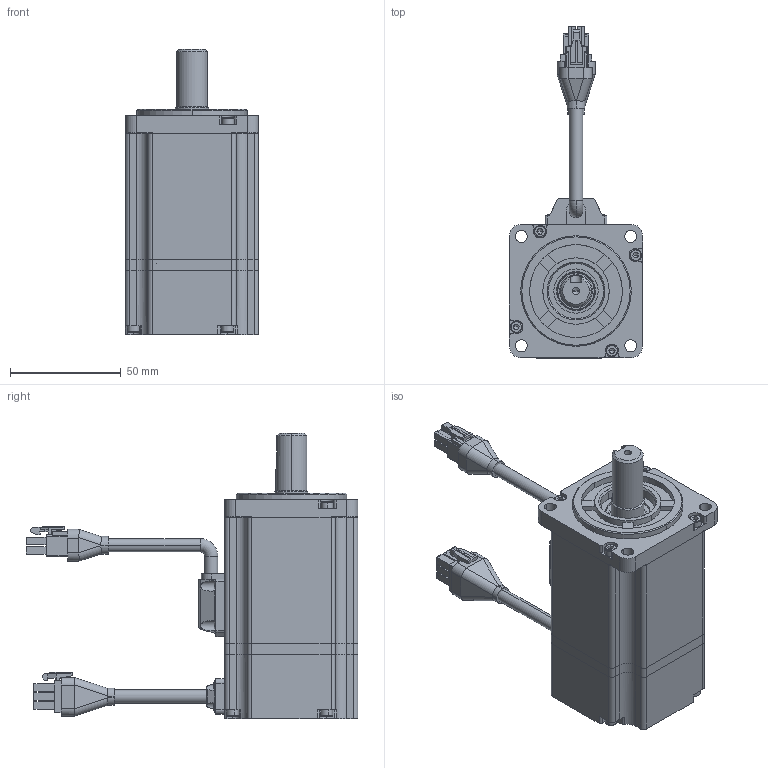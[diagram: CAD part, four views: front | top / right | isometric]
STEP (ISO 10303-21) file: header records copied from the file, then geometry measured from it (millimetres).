
FILE_DESCRIPTION (( 'STEP AP203' ), '1' );
FILE_NAME ('R60-400.STEP', '2019-08-23T05:39:00', ( '1' ), ( 'MideaGroup IT' ), 'SwSTEP 2.0', 'SolidWorks 2012', '' );
FILE_SCHEMA (( 'CONFIG_CONTROL_DESIGN' ));
Length unit declared in the file: millimetre
Products named in the file (25): R60-400; M3X28_GB_FASTENER_SCREWS_HSHCS M3X25-C; 雄薯盄揤裔郪璃; 雄薯盄傷赽裔; 雄薯盄; 雄薯盄傷赽; 雄薯盄躇猾菜; 雄薯盄揤裔; 毀嚏盄揤裔郪璃; 毀嚏盄傷赽揤裔; M2.5X5_GB_CROSS_SCREWS_TYPE3 M2.5X8-8-N; 晤鎢ん盄傷赽; 晤鎢ん盄揤裔躇猾; 晤鎢ん盄揤裔; 蛌赽郪璃-001; 6003; 6003_qiu; 6003_bq; 6003_nh; 6003_wq; 萇儂粣-001; 綴裔-001; 綴傷裔-001; ヶ傷裔-001; 儂褲-001
Assembly tree (48 placements, depth 4):
  R60-400
    儂褲-001
    ヶ傷裔-001
    綴傷裔-001
    綴裔-001
    蛌赽郪璃-001
      萇儂粣-001
      6003
        6003_wq
        6003_nh
        6003_bq
        6003_qiu  x11
    毀嚏盄揤裔郪璃
      晤鎢ん盄揤裔
      晤鎢ん盄揤裔躇猾
      晤鎢ん盄傷赽
      M2.5X5_GB_CROSS_SCREWS_TYPE3 M2.5X8-8-N  x4
      毀嚏盄傷赽揤裔
    雄薯盄揤裔郪璃
      雄薯盄揤裔
      雄薯盄躇猾菜
      雄薯盄傷赽
      雄薯盄
      M2.5X5_GB_CROSS_SCREWS_TYPE3 M2.5X8-8-N  x4
      雄薯盄傷赽裔
    M3X28_GB_FASTENER_SCREWS_HSHCS M3X25-C  x8
Bounding box: 60.2 x 150 x 129 mm (x, y, z)
Volume: 138376.8 mm3; surface area: 94772.9 mm2
Topology: 46 solids, 72 shells, 1572 faces, 4258 edges, 2806 vertices
Faces by surface type: plane 765, cylinder 610, cone 89, torus 56, sphere 38, bspline 14
Entity records: 46373 total; most frequent: CARTESIAN_POINT 11939, DIRECTION 6594, ORIENTED_EDGE 6281, EDGE_CURVE 3321, AXIS2_PLACEMENT_3D 2333, VERTEX_POINT 2210, LINE 1928, VECTOR 1928
